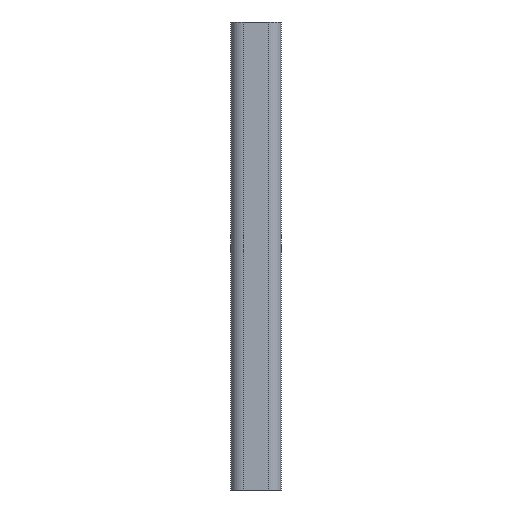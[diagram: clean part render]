
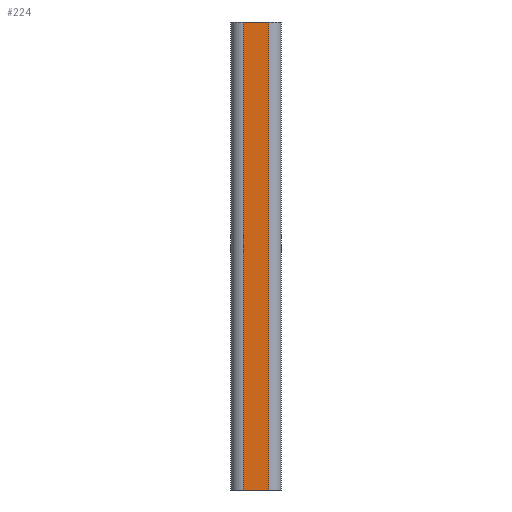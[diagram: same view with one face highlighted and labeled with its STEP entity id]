
A CAD part, front view. The second image highlights one B-rep face of the part: STEP entity #224.
In plain terms, the highlighted planar face has unit normal (0, -1, 0).
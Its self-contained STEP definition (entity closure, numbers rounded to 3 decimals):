
#4 = CARTESIAN_POINT ( 'NONE',  ( -2.75, 0., 0. ) ) ;
#12 = LINE ( 'NONE', #1167, #168 ) ;
#30 = DIRECTION ( 'NONE',  ( -1., 0., 0. ) ) ;
#41 = VECTOR ( 'NONE', #992, 1000. ) ;
#82 = VERTEX_POINT ( 'NONE', #1183 ) ;
#84 = ORIENTED_EDGE ( 'NONE', *, *, #754, .F. ) ;
#124 = CARTESIAN_POINT ( 'NONE',  ( -2.75, 0., 100. ) ) ;
#134 = CARTESIAN_POINT ( 'NONE',  ( 2.75, 0., 100. ) ) ;
#148 = VERTEX_POINT ( 'NONE', #4 ) ;
#168 = VECTOR ( 'NONE', #378, 1000. ) ;
#201 = LINE ( 'NONE', #1051, #685 ) ;
#224 = ADVANCED_FACE ( 'NONE', ( #817 ), #413, .F. ) ;
#251 = ORIENTED_EDGE ( 'NONE', *, *, #1077, .T. ) ;
#308 = VERTEX_POINT ( 'NONE', #134 ) ;
#313 = EDGE_LOOP ( 'NONE', ( #251, #84, #1074, #1191 ) ) ;
#378 = DIRECTION ( 'NONE',  ( 1., 0., 0. ) ) ;
#403 = DIRECTION ( 'NONE',  ( 0., 0., -1. ) ) ;
#411 = LINE ( 'NONE', #889, #41 ) ;
#413 = PLANE ( 'NONE',  #499 ) ;
#499 = AXIS2_PLACEMENT_3D ( 'NONE', #124, #993, #30 ) ;
#598 = VERTEX_POINT ( 'NONE', #1230 ) ;
#609 = VECTOR ( 'NONE', #403, 1000. ) ;
#685 = VECTOR ( 'NONE', #962, 1000. ) ;
#699 = EDGE_CURVE ( 'NONE', #82, #308, #12, .T. ) ;
#754 = EDGE_CURVE ( 'NONE', #308, #598, #966, .T. ) ;
#817 = FACE_OUTER_BOUND ( 'NONE', #313, .T. ) ;
#889 = CARTESIAN_POINT ( 'NONE',  ( -2.75, 0., 100. ) ) ;
#962 = DIRECTION ( 'NONE',  ( 1., 0., 0. ) ) ;
#966 = LINE ( 'NONE', #987, #609 ) ;
#987 = CARTESIAN_POINT ( 'NONE',  ( 2.75, 0., 100. ) ) ;
#992 = DIRECTION ( 'NONE',  ( 0., 0., -1. ) ) ;
#993 = DIRECTION ( 'NONE',  ( 0., 1., 0. ) ) ;
#1051 = CARTESIAN_POINT ( 'NONE',  ( -2.75, 0., 0. ) ) ;
#1074 = ORIENTED_EDGE ( 'NONE', *, *, #699, .F. ) ;
#1077 = EDGE_CURVE ( 'NONE', #148, #598, #201, .T. ) ;
#1167 = CARTESIAN_POINT ( 'NONE',  ( -2.75, 0., 100. ) ) ;
#1183 = CARTESIAN_POINT ( 'NONE',  ( -2.75, 0., 100. ) ) ;
#1191 = ORIENTED_EDGE ( 'NONE', *, *, #1195, .T. ) ;
#1195 = EDGE_CURVE ( 'NONE', #82, #148, #411, .T. ) ;
#1230 = CARTESIAN_POINT ( 'NONE',  ( 2.75, 0., 0. ) ) ;
